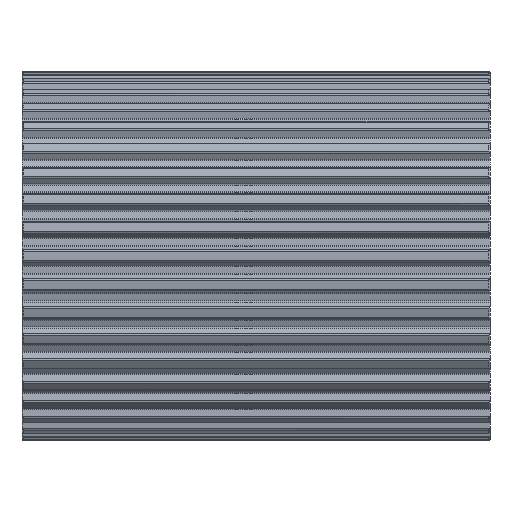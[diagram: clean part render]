
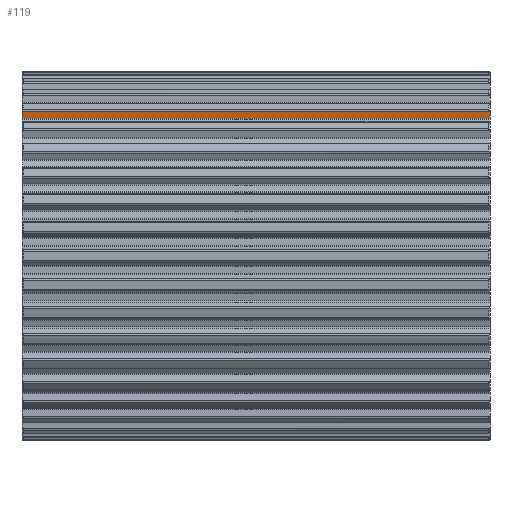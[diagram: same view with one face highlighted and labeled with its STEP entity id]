
A CAD part, front view. The second image highlights one B-rep face of the part: STEP entity #119.
In plain terms, the highlighted planar face has unit normal (0, -0.982, -0.191).
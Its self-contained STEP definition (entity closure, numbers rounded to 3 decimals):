
#119=ADVANCED_FACE('',(#611),#612,.T.);
#611=FACE_OUTER_BOUND('',#1449,.T.);
#612=PLANE('',#1450);
#1449=EDGE_LOOP('',(#2740,#2741,#2742,#2743,#2744,#2745));
#1450=AXIS2_PLACEMENT_3D('',#2746,#2747,#2748);
#2740=ORIENTED_EDGE('',*,*,#6092,.T.);
#2741=ORIENTED_EDGE('',*,*,#6197,.F.);
#2742=ORIENTED_EDGE('',*,*,#6198,.T.);
#2743=ORIENTED_EDGE('',*,*,#6199,.T.);
#2744=ORIENTED_EDGE('',*,*,#6200,.T.);
#2745=ORIENTED_EDGE('',*,*,#6195,.F.);
#2746=CARTESIAN_POINT('',(0.0,-38.294,48.322));
#2747=DIRECTION('',(0.,-0.982,-0.191));
#2748=DIRECTION('',(0.,0.191,-0.982));
#6092=EDGE_CURVE('',#7543,#7541,#7544,.T.);
#6195=EDGE_CURVE('',#7543,#7731,#7732,.T.);
#6197=EDGE_CURVE('',#7734,#7541,#7735,.T.);
#6198=EDGE_CURVE('',#7734,#7736,#7737,.T.);
#6199=EDGE_CURVE('',#7736,#7738,#7739,.T.);
#6200=EDGE_CURVE('',#7738,#7731,#7740,.T.);
#7541=VERTEX_POINT('',#10767);
#7543=VERTEX_POINT('',#10769);
#7544=(B_SPLINE_CURVE(2,(#10771,#10772,#10773),.UNSPECIFIED.,.F.,.F.)B_SPLINE_CURVE_WITH_KNOTS((3,3),(0.0,0.751),.UNSPECIFIED.)RATIONAL_B_SPLINE_CURVE((1.0,1.,1.0))BOUNDED_CURVE()REPRESENTATION_ITEM('')GEOMETRIC_REPRESENTATION_ITEM()CURVE());
#7731=VERTEX_POINT('',#11403);
#7732=LINE('',#11404,#11405);
#7734=VERTEX_POINT('',#11416);
#7735=LINE('',#11417,#11418);
#7736=VERTEX_POINT('',#11419);
#7737=LINE('',#11420,#11421);
#7738=VERTEX_POINT('',#11422);
#7739=LINE('',#11423,#11424);
#7740=(B_SPLINE_CURVE(2,(#11426,#11427,#11428),.UNSPECIFIED.,.F.,.F.)B_SPLINE_CURVE_WITH_KNOTS((3,3),(0.0,0.751),.UNSPECIFIED.)RATIONAL_B_SPLINE_CURVE((1.0,1.,1.0))BOUNDED_CURVE()REPRESENTATION_ITEM('')GEOMETRIC_REPRESENTATION_ITEM()CURVE());
#10767=CARTESIAN_POINT('',(0.0,-38.509,49.43));
#10769=CARTESIAN_POINT('',(0.072,-38.525,49.509));
#10771=CARTESIAN_POINT('',(0.5,-38.616,49.98));
#10772=CARTESIAN_POINT('',(0.249,-38.563,49.704));
#10773=CARTESIAN_POINT('',(0.0,-38.509,49.43));
#11403=CARTESIAN_POINT('',(159.928,-38.525,49.509));
#11404=CARTESIAN_POINT('',(0.0,-38.525,49.509));
#11405=VECTOR('',#14961,1.0);
#11416=CARTESIAN_POINT('',(0.0,-38.063,47.135));
#11417=CARTESIAN_POINT('',(0.0,-38.063,47.135));
#11418=VECTOR('',#14962,1.);
#11419=CARTESIAN_POINT('',(160.0,-38.063,47.135));
#11420=CARTESIAN_POINT('',(0.0,-38.063,47.135));
#11421=VECTOR('',#14963,1.0);
#11422=CARTESIAN_POINT('',(160.0,-38.509,49.43));
#11423=CARTESIAN_POINT('',(160.0,-38.063,47.135));
#11424=VECTOR('',#14964,1.);
#11426=CARTESIAN_POINT('',(160.0,-38.509,49.43));
#11427=CARTESIAN_POINT('',(159.751,-38.563,49.704));
#11428=CARTESIAN_POINT('',(159.5,-38.616,49.98));
#14961=DIRECTION('',(1.0,0.,0.));
#14962=DIRECTION('',(0.,-0.191,0.982));
#14963=DIRECTION('',(1.0,0.,0.));
#14964=DIRECTION('',(0.,-0.191,0.982));
